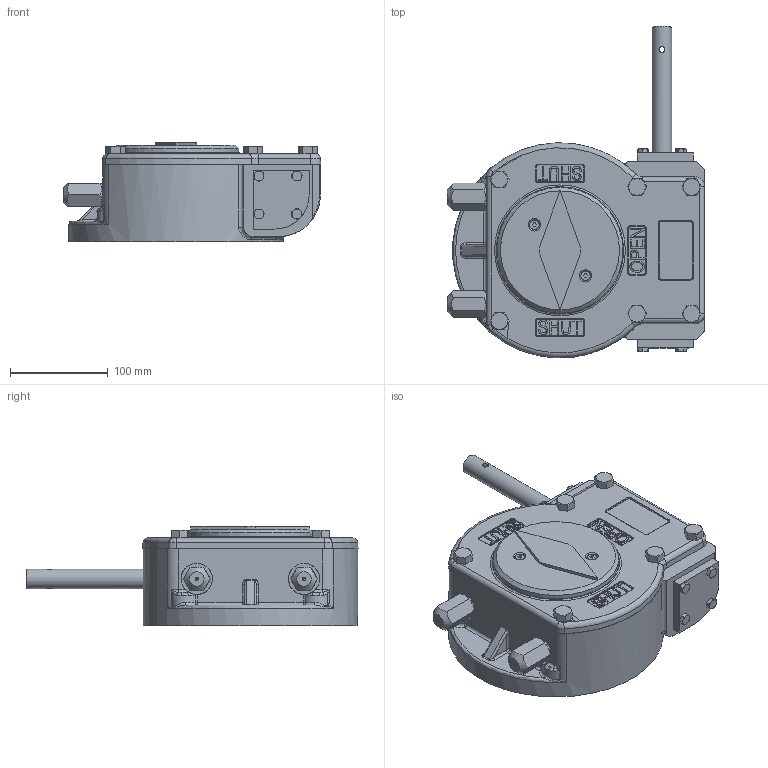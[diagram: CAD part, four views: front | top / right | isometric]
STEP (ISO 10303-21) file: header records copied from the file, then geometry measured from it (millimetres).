
FILE_DESCRIPTION( ( 'Unknown' ), '1' );
FILE_NAME( 'M:/Current Drawings/Internet datasheets/4 - STEP/AB1250G LH.stp', 'Unknown', ( 'Unknown' ), ( 'Unknown' ), 'PSStep 15.0.49', 'Unknown', ' ' );
FILE_SCHEMA( ( 'AUTOMOTIVE_DESIGN { 1 0 10303 214 1 1 1 1 }' ) );
Length unit declared in the file: millimetre
Products named in the file (1): 10DZ10M050M01
Bounding box: 263.88 x 340.31 x 102 mm (x, y, z)
Volume: 2821176.2 mm3; surface area: 393815.2 mm2
Topology: 1 solids, 28 shells, 1611 faces, 4148 edges, 2613 vertices
Faces by surface type: plane 512, cylinder 371, cone 277, bspline 220, torus 195, extrusion 26, sphere 10
Full cylindrical faces by diameter (mm): 3 x1, 5 x2, 5.6 x2, 6 x11, 7 x8, 8.376 x12, 9.78 x2, 10 x6, 10.106 x8, 12 x6, 13.835 x2, 17.294 x8, 20 x3, 20.5 x2, 22 x2, 24 x1, 25.2 x1, 26 x3, 32 x2, 82.15 x2, 84 x2, 85 x3, 100 x1, 107 x1, 112.6 x1, 129 x1, 220 x1
Entity records: 89686 total; most frequent: CARTESIAN_POINT 41515, ORIENTED_EDGE 7750, DIRECTION 6606, EDGE_CURVE 3875, AXIS2_PLACEMENT_3D 2790, VERTEX_POINT 2527, EDGE_LOOP 1845, FACE_OUTER_BOUND 1717
